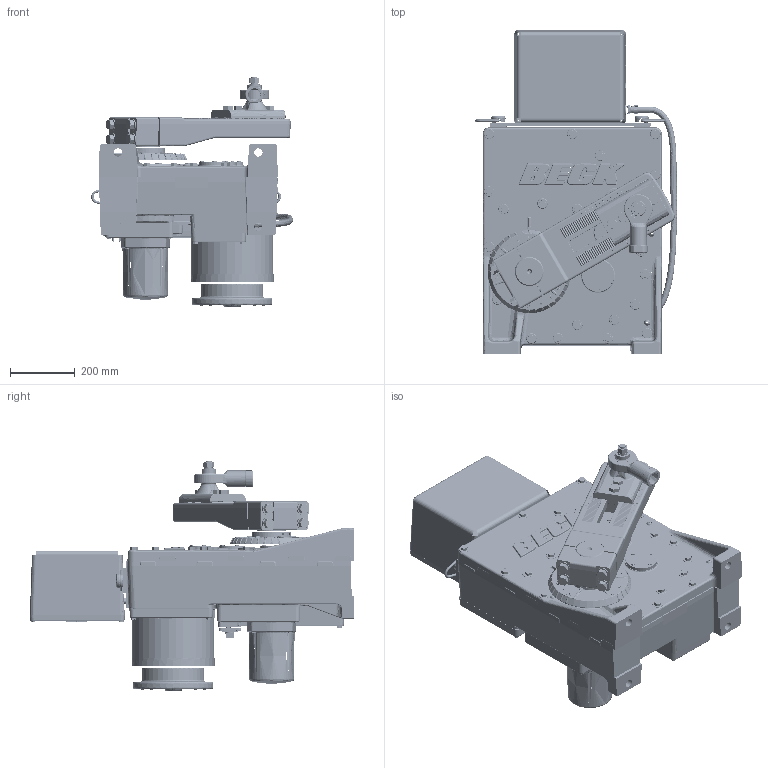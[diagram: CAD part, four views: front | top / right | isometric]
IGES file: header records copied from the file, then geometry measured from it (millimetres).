
Start section: SolidWorks IGES file using analytic representation for surfaces
Global section: file name: N:\Engineering\Product Support\Outline Dimension Models\22-300\18-2230-05.IGS; native system: SolidWorks 2013; preprocessor: SolidWorks 2013; author: jmack; date: 140411.103040; units: inch
Bounding box: 620.66 x 998.47 x 710.48 mm (x, y, z)
Surface area: 3471018.7 mm2 (no closed solid volume)
Topology: 0 solids, 0 shells, 3610 faces, 72039 edges, 71969 vertices
Faces by surface type: bspline 2142, revolution 1468
